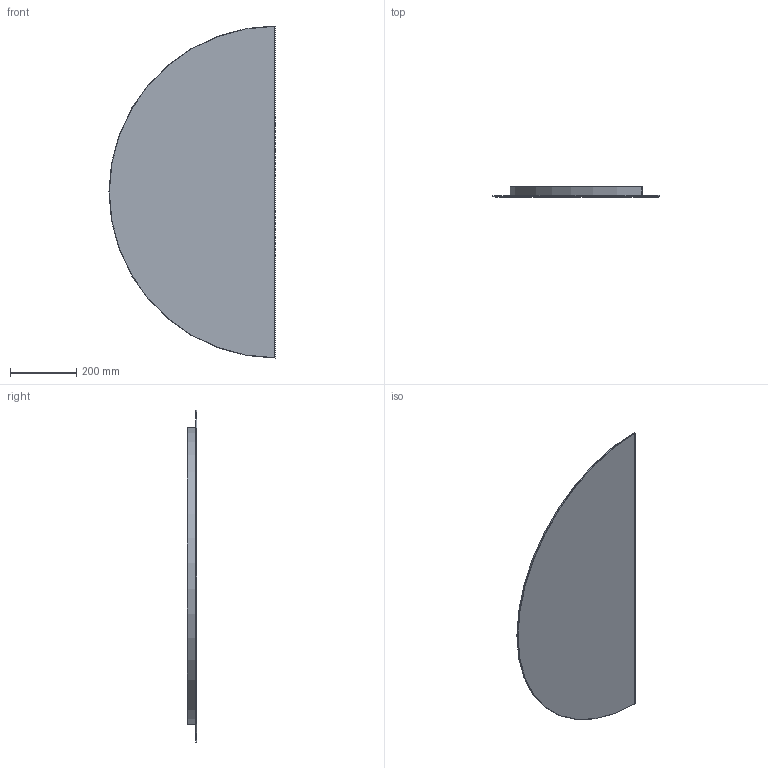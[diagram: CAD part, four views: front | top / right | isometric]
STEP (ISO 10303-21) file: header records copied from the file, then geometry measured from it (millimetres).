
FILE_DESCRIPTION(/* description */ ('Unknown'),/* implementation_level */ '2;1');
FILE_NAME(/* name */ 'Demi',/* time_stamp */ '2026-01-08T15:00:20+01:00',/* author */ ('Mariusz Kirko'),/* organization */ ('Kraft'),/* preprocessor_version */ 'ST-DEVELOPER v19.4',/* originating_system */ 'Solid Edge',/* authorisation */ 'Unknown');
FILE_SCHEMA (('AUTOMOTIVE_DESIGN {1 0 10303 214 3 1 1}'));
Length unit declared in the file: millimetre
Products named in the file (4): Z這瞠nie 100 plus zawieszki; Lustro 100; Ramka HIPS 100; 300x26 Corte
Assembly tree (4 placements, depth 2):
  Z這瞠nie 100 plus zawieszki
    Lustro 100
    Ramka HIPS 100
    300x26 Corte  x2
Bounding box: 500 x 30 x 1000 mm (x, y, z)
Volume: 1738839.2 mm3; surface area: 1029722.6 mm2
Topology: 4 solids, 4 shells, 128 faces, 358 edges, 238 vertices
Faces by surface type: plane 75, cylinder 52, torus 1
Entity records: 2378 total; most frequent: CARTESIAN_POINT 399, DIRECTION 393, ORIENTED_EDGE 380, EDGE_CURVE 190, LINE 133, VECTOR 133, AXIS2_PLACEMENT_3D 130, VERTEX_POINT 126
